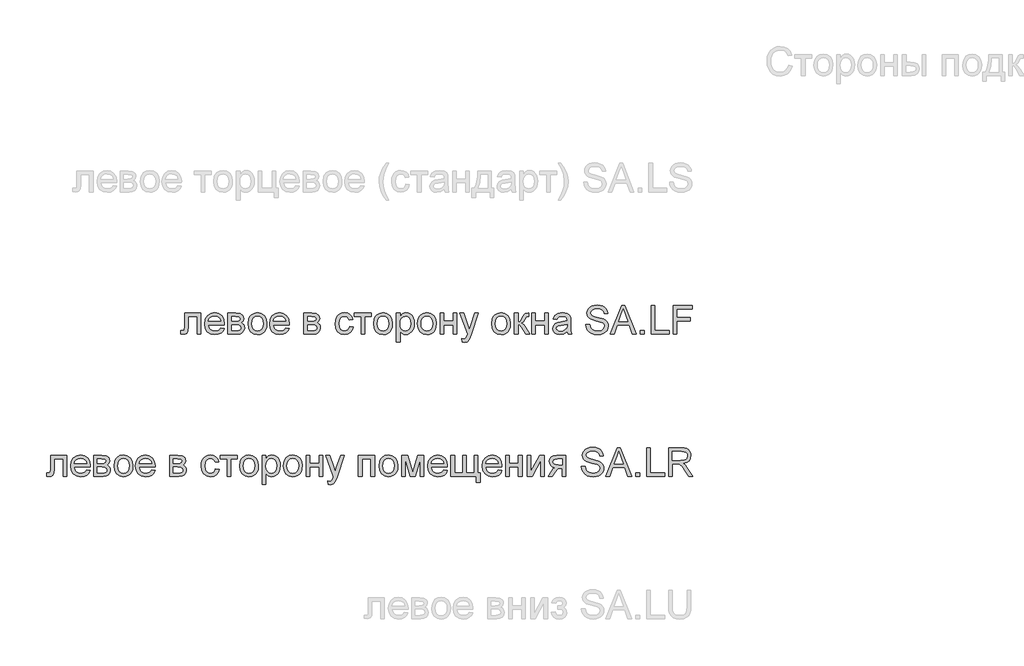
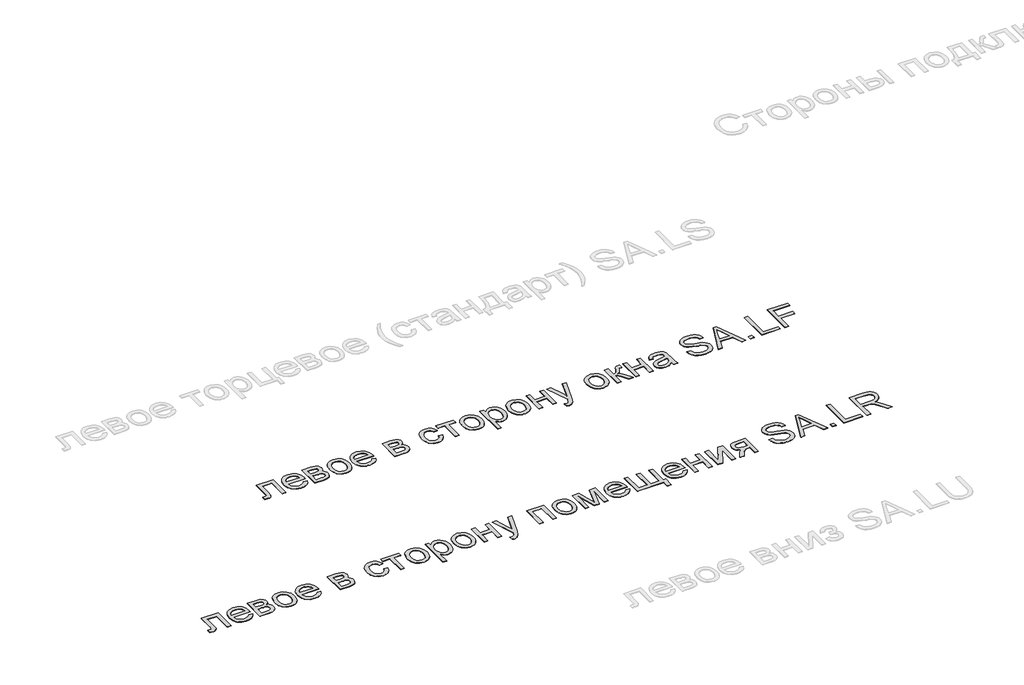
# One storey, part 5 of 17: 2 proxies.
"""IFC4 building model written with IfcOpenShell, lengths in millimetres."""

from ifc_helpers import new_model, si_unit, origin, origin_with_axes, place, context, project, spatial, polyline, outline, extrude, element, save

model = new_model("IFC4")

# Units and contexts
model_context = context("Model", 3, world=origin())
ifc_project = project(units=[si_unit("LENGTHUNIT", "METRE", prefix="MILLI")], contexts=[model_context])

# Site, building, storey
site = spatial("IfcSite", under=ifc_project)
building = spatial("IfcBuilding", under=site)
storey = spatial("IfcBuildingStorey", under=building, Name="Уровень 1", Elevation=0.0)

# Proxies
placement = place(None, origin())
element("IfcBuildingElementProxy", 1, Name="Текст модели 1", ObjectType="Текст модели 1", at=placement, inside=storey, context=model_context, shape_type="SweptSolid", body=[
    extrude(outline(polyline([(15703.2549634, -10578.6972647), (15816.2683123, -10578.6972647), (15816.2683123, -10726.0953174), (15791.1542348, -10726.0953174), (15791.1542348, -10603.8113423), (15728.3690409, -10603.8113423), (15728.3690409, -10674.1994307), (15726.6767837, -10706.6711481), (15717.381632, -10720.3808838), (15708.0864803, -10724.7770736), (15695.4068142, -10726.2424702), (15675.0016262, -10724.967146), (15675.0016262, -10701.1283927), (15686.2342897, -10701.1283927), (15697.5895807, -10699.5832883), (15702.1267919, -10694.6781951), (15703.2549634, -10672.7769536), (15703.2549634, -10578.6972647)])), origin_with_axes(), (0.0, 0.0, 1.0), 2.0),
    extrude(outline(polyline([(15957.2406929, -10682.2928346), (15981.8642611, -10685.4320942), (15972.9921736, -10703.9856095), (15958.8348482, -10717.8547608), (15939.7111158, -10726.4999876), (15915.9398075, -10729.3817299), (15886.4724597, -10724.4091916), (15863.7986661, -10709.4915767), (15849.3409037, -10685.5976411), (15844.5216495, -10653.6961408), (15849.3899546, -10620.7216513), (15863.9948698, -10596.0612949), (15886.3620951, -10580.6838275), (15914.5173305, -10575.558005), (15941.7957804, -10580.6715648), (15963.5927886, -10596.012244), (15977.8850041, -10620.6235494), (15982.649076, -10653.548988), (15982.5019232, -10660.3180167), (15869.6357271, -10660.3180167), (15873.982866, -10679.1167867), (15884.0812267, -10692.936887), (15898.6554851, -10701.434961), (15916.4303169, -10704.2676524), (15941.0538851, -10699.0192026), (15950.201884, -10692.2133857), (15957.2406929, -10682.2928346)]), holes=[polyline([(15869.6357271, -10635.2039392), (15957.5349984, -10635.2039392), (15954.1382214, -10621.9356619), (15947.4795572, -10612.4443064), (15932.8378538, -10603.6151385), (15914.4192286, -10600.6720826), (15897.4905255, -10603.020396), (15883.4926156, -10610.0653362), (15873.7621368, -10621.0466137), (15869.6357271, -10635.2039392)])]), origin_with_axes(), (0.0, 0.0, 1.0), 2.0),
    extrude(outline(polyline([(16007.7631535, -10578.6972647), (16063.0926056, -10578.6972647), (16093.4306075, -10582.0572536), (16110.500332, -10594.3690377), (16115.8530151, -10604.2098811), (16117.6372428, -10615.8288208), (16113.3207607, -10633.2664273), (16100.3222635, -10645.7008388), (16109.6174153, -10650.9186317), (16117.1957844, -10659.3124726), (16122.2357677, -10670.2201737), (16123.9157621, -10682.9795476), (16119.6605937, -10702.1216741), (16109.5438389, -10715.5984179), (16093.5287093, -10723.5814571), (16071.578417, -10726.2424702), (16007.7631535, -10726.2424702), (16007.7631535, -10578.6972647)]), holes=[polyline([(16032.8772311, -10635.2039392), (16057.697003, -10635.2039392), (16078.1757674, -10633.9286149), (16088.1331067, -10628.8273179), (16092.5231652, -10619.6057426), (16090.5979161, -10612.1132126), (16084.8221688, -10607.2939585), (16058.4818179, -10603.8113423), (16032.8772311, -10603.8113423), (16032.8772311, -10635.2039392)]), polyline([(16032.8772311, -10701.1283927), (16063.6812168, -10701.1283927), (16080.4688985, -10699.9940899), (16091.0025863, -10696.5911814), (16096.6557063, -10690.4046326), (16098.8016846, -10680.9194084), (16094.509728, -10668.8283535), (16083.3261153, -10661.7895447), (16061.2286702, -10660.3180167), (16032.8772311, -10660.3180167), (16032.8772311, -10701.1283927)])]), origin_with_axes(), (0.0, 0.0, 1.0), 2.0),
    extrude(outline(polyline([(16149.0298397, -10652.4698675), (16154.4622305, -10616.8956785), (16161.252719, -10603.0725126), (16170.7594029, -10591.8919656), (16190.8948107, -10579.6414952), (16215.0033441, -10575.558005), (16241.3866146, -10580.5305433), (16262.4601215, -10595.4481582), (16276.2740904, -10619.1336274), (16280.8787467, -10650.4097283), (16278.843133, -10675.7813232), (16272.7362919, -10695.095128), (16262.736033, -10709.5590218), (16249.020166, -10720.3808838), (16232.7291249, -10727.1315184), (16215.0033441, -10729.3817299), (16188.3012427, -10724.4275857), (16167.2522612, -10709.5651531), (16153.585445, -10685.3830433), (16149.0298397, -10652.4698675)]), holes=[polyline([(16174.1439172, -10652.4208165), (16177.050185, -10675.1497925), (16185.7689883, -10691.3427316), (16198.8901128, -10701.0364222), (16215.0033441, -10704.2676524), (16231.0429991, -10701.0180281), (16244.1395982, -10691.2691552), (16252.8584014, -10674.8616183), (16255.7646692, -10651.6360016), (16252.8400073, -10629.5692133), (16244.0660218, -10613.5970033), (16230.9510286, -10603.9033128), (16215.0033441, -10600.6720826), (16198.8901128, -10603.89105), (16185.7689883, -10613.5479524), (16177.050185, -10629.7041033), (16174.1439172, -10652.4208165)])]), origin_with_axes(), (0.0, 0.0, 1.0), 2.0),
    extrude(outline(polyline([(16412.4333482, -10682.2928346), (16437.0569164, -10685.4320942), (16428.184829, -10703.9856095), (16414.0275035, -10717.8547608), (16394.9037711, -10726.4999876), (16371.1324629, -10729.3817299), (16341.6651151, -10724.4091916), (16318.9913214, -10709.4915767), (16304.533559, -10685.5976411), (16299.7143049, -10653.6961408), (16304.58261, -10620.7216513), (16319.1875252, -10596.0612949), (16341.5547505, -10580.6838275), (16369.7099858, -10575.558005), (16396.9884358, -10580.6715648), (16418.785444, -10596.012244), (16433.0776595, -10620.6235494), (16437.8417314, -10653.548988), (16437.6945786, -10660.3180167), (16324.8283824, -10660.3180167), (16329.1755213, -10679.1167867), (16339.2738821, -10692.936887), (16353.8481405, -10701.434961), (16371.6229722, -10704.2676524), (16396.2465404, -10699.0192026), (16405.3945394, -10692.2133857), (16412.4333482, -10682.2928346)]), holes=[polyline([(16324.8283824, -10635.2039392), (16412.7276538, -10635.2039392), (16409.3308767, -10621.9356619), (16402.6722126, -10612.4443064), (16388.0305092, -10603.6151385), (16369.611884, -10600.6720826), (16352.6831808, -10603.020396), (16338.6852709, -10610.0653362), (16328.9547921, -10621.0466137), (16324.8283824, -10635.2039392)])]), origin_with_axes(), (0.0, 0.0, 1.0), 2.0),
    extrude(outline(polyline([(16541.4373012, -10578.6972647), (16596.7667533, -10578.6972647), (16627.1047551, -10582.0572536), (16644.1744797, -10594.3690377), (16649.5271627, -10604.2098811), (16651.3113904, -10615.8288208), (16646.9949083, -10633.2664273), (16633.9964112, -10645.7008388), (16643.2915629, -10650.9186317), (16650.869932, -10659.3124726), (16655.9099154, -10670.2201737), (16657.5899098, -10682.9795476), (16653.3347414, -10702.1216741), (16643.2179865, -10715.5984179), (16627.202857, -10723.5814571), (16605.2525646, -10726.2424702), (16541.4373012, -10726.2424702), (16541.4373012, -10578.6972647)]), holes=[polyline([(16566.5513787, -10635.2039392), (16591.3711507, -10635.2039392), (16611.8499151, -10633.9286149), (16621.8072544, -10628.8273179), (16626.1973129, -10619.6057426), (16624.2720638, -10612.1132126), (16618.4963165, -10607.2939585), (16592.1559656, -10603.8113423), (16566.5513787, -10603.8113423), (16566.5513787, -10635.2039392)]), polyline([(16566.5513787, -10701.1283927), (16597.3553645, -10701.1283927), (16614.1430462, -10699.9940899), (16624.676734, -10696.5911814), (16630.329854, -10690.4046326), (16632.4758323, -10680.9194084), (16628.1838757, -10668.8283535), (16617.000263, -10661.7895447), (16594.9028178, -10660.3180167), (16566.5513787, -10660.3180167), (16566.5513787, -10701.1283927)])]), origin_with_axes(), (0.0, 0.0, 1.0), 2.0),
    extrude(outline(polyline([(16861.6417898, -10672.8750555), (16886.7558673, -10676.0143152), (16879.7538467, -10698.3508836), (16866.595934, -10715.2305359), (16848.5206653, -10725.8439314), (16826.7665767, -10729.3817299), (16800.0522124, -10724.4459798), (16779.1626465, -10709.6387295), (16765.6797714, -10685.6099039), (16761.1854796, -10653.0094277), (16763.1045974, -10630.6605965), (16768.8619506, -10611.2916095), (16778.5495098, -10595.6504933), (16792.2592455, -10584.4852748), (16808.6606511, -10577.7898225), (16826.4232201, -10575.558005), (16847.6438799, -10578.6236883), (16864.6093712, -10587.8207382), (16876.7801339, -10602.6586453), (16883.6166076, -10622.6469004), (16858.5025301, -10625.7861601), (16853.9469247, -10614.829408), (16846.8529336, -10606.9751274), (16837.6129641, -10602.2478438), (16826.6194239, -10600.6720826), (16810.3896965, -10603.7745541), (16797.5076953, -10613.0819685), (16789.1015917, -10629.0970981), (16786.2995572, -10652.3227147), (16789.040278, -10675.861031), (16797.2624406, -10691.9313428), (16809.9114499, -10701.183575), (16825.9327108, -10704.2676524), (16838.9373393, -10702.3424033), (16849.5997858, -10696.566656), (16857.3559646, -10686.7932576), (16861.6417898, -10672.8750555)])), origin_with_axes(), (0.0, 0.0, 1.0), 2.0),
    extrude(outline(polyline([(16896.1736464, -10578.6972647), (17015.4655147, -10578.6972647), (17015.4655147, -10603.8113423), (16968.3766193, -10603.8113423), (16968.3766193, -10726.2424702), (16943.2625418, -10726.2424702), (16943.2625418, -10603.8113423), (16896.1736464, -10603.8113423), (16896.1736464, -10578.6972647)])), origin_with_axes(), (0.0, 0.0, 1.0), 2.0),
    extrude(outline(polyline([(17031.1618132, -10652.4698675), (17036.594204, -10616.8956785), (17043.3846925, -10603.0725126), (17052.8913764, -10591.8919656), (17073.0267842, -10579.6414952), (17097.1353176, -10575.558005), (17123.5185881, -10580.5305433), (17144.592095, -10595.4481582), (17158.4060639, -10619.1336274), (17163.0107202, -10650.4097283), (17160.9751065, -10675.7813232), (17154.8682654, -10695.095128), (17144.8680065, -10709.5590218), (17131.1521395, -10720.3808838), (17114.8610984, -10727.1315184), (17097.1353176, -10729.3817299), (17070.4332162, -10724.4275857), (17049.3842347, -10709.5651531), (17035.7174185, -10685.3830433), (17031.1618132, -10652.4698675)]), holes=[polyline([(17056.2758907, -10652.4208165), (17059.1821585, -10675.1497925), (17067.9009618, -10691.3427316), (17081.0220863, -10701.0364222), (17097.1353176, -10704.2676524), (17113.1749726, -10701.0180281), (17126.2715717, -10691.2691552), (17134.9903749, -10674.8616183), (17137.8966427, -10651.6360016), (17134.9719808, -10629.5692133), (17126.1979953, -10613.5970033), (17113.0830021, -10603.9033128), (17097.1353176, -10600.6720826), (17081.0220863, -10603.89105), (17067.9009618, -10613.5479524), (17059.1821585, -10629.7041033), (17056.2758907, -10652.4208165)])]), origin_with_axes(), (0.0, 0.0, 1.0), 2.0),
    extrude(outline(polyline([(17191.2640575, -10782.7491447), (17191.2640575, -10578.6972647), (17216.378135, -10578.6972647), (17216.378135, -10603.3208329), (17233.7421652, -10582.498712), (17244.4352685, -10577.2931818), (17257.188511, -10575.558005), (17274.1723965, -10577.9860262), (17289.0225663, -10585.2700897), (17301.1136212, -10596.9687371), (17309.8201618, -10612.6405101), (17315.0808743, -10631.1449745), (17316.8344452, -10651.341696), (17314.8540138, -10672.8198732), (17308.9127195, -10692.0294447), (17299.2006349, -10707.9955233), (17285.9078321, -10719.7432217), (17270.4261315, -10726.9721029), (17254.1473532, -10729.3817299), (17242.6019899, -10727.7691805), (17232.2951627, -10722.9315323), (17216.378135, -10706.6220972), (17216.378135, -10782.7491447), (17191.2640575, -10782.7491447)]), holes=[polyline([(17216.378135, -10653.6470899), (17219.0943304, -10676.161468), (17227.2429166, -10691.9068174), (17239.2665265, -10701.1774436), (17253.6077929, -10704.2676524), (17268.1820513, -10701.067079), (17280.5122295, -10691.465359), (17288.9183331, -10675.1436611), (17291.7203676, -10651.7831544), (17288.9857781, -10629.3914037), (17280.7820096, -10613.4253251), (17268.7767939, -10603.8603932), (17254.6378625, -10600.6720826), (17240.4437489, -10604.0627283), (17227.9786806, -10614.2346654), (17219.2782714, -10630.869063), (17216.378135, -10653.6470899)])]), origin_with_axes(), (0.0, 0.0, 1.0), 2.0),
    extrude(outline(polyline([(17338.809263, -10652.4698675), (17344.2416538, -10616.8956785), (17351.0321423, -10603.0725126), (17360.5388262, -10591.8919656), (17380.6742341, -10579.6414952), (17404.7827675, -10575.558005), (17431.1660379, -10580.5305433), (17452.2395449, -10595.4481582), (17466.0535138, -10619.1336274), (17470.6581701, -10650.4097283), (17468.6225564, -10675.7813232), (17462.5157153, -10695.095128), (17452.5154563, -10709.5590218), (17438.7995893, -10720.3808838), (17422.5085483, -10727.1315184), (17404.7827675, -10729.3817299), (17378.080666, -10724.4275857), (17357.0316845, -10709.5651531), (17343.3648684, -10685.3830433), (17338.809263, -10652.4698675)]), holes=[polyline([(17363.9233405, -10652.4208165), (17366.8296083, -10675.1497925), (17375.5484116, -10691.3427316), (17388.6695361, -10701.0364222), (17404.7827675, -10704.2676524), (17420.8224225, -10701.0180281), (17433.9190215, -10691.2691552), (17442.6378248, -10674.8616183), (17445.5440925, -10651.6360016), (17442.6194307, -10629.5692133), (17433.8454451, -10613.5970033), (17420.730452, -10603.9033128), (17404.7827675, -10600.6720826), (17388.6695361, -10603.89105), (17375.5484116, -10613.5479524), (17366.8296083, -10629.7041033), (17363.9233405, -10652.4208165)])]), origin_with_axes(), (0.0, 0.0, 1.0), 2.0),
    extrude(outline(polyline([(17498.9115073, -10578.6972647), (17524.0255848, -10578.6972647), (17524.0255848, -10635.2039392), (17589.9500384, -10635.2039392), (17589.9500384, -10578.6972647), (17615.0641159, -10578.6972647), (17615.0641159, -10726.2424702), (17589.9500384, -10726.2424702), (17589.9500384, -10660.3180167), (17524.0255848, -10660.3180167), (17524.0255848, -10726.2424702), (17498.9115073, -10726.2424702), (17498.9115073, -10578.6972647)])), origin_with_axes(), (0.0, 0.0, 1.0), 2.0),
    extrude(outline(polyline([(17652.7352322, -10782.7491447), (17649.5959725, -10758.5670349), (17662.349215, -10760.7743269), (17674.2685917, -10758.0029492), (17681.5771806, -10750.2774273), (17688.4443112, -10731.7852256), (17690.4063485, -10725.70291), (17637.0389338, -10578.6972647), (17663.5264374, -10578.6972647), (17691.8288256, -10660.6123223), (17701.688063, -10693.3783453), (17711.5473005, -10664.4382951), (17740.6345036, -10578.6972647), (17766.9258035, -10578.6972647), (17715.569477, -10729.7741374), (17702.2276233, -10762.5401604), (17687.6594963, -10780.2475471), (17668.0881742, -10785.8884044), (17652.7352322, -10782.7491447)])), origin_with_axes(), (0.0, 0.0, 1.0), 2.0),
    extrude(outline(polyline([(17859.9263719, -10652.4698675), (17865.3587627, -10616.8956785), (17872.1492512, -10603.0725126), (17881.6559351, -10591.8919656), (17901.791343, -10579.6414952), (17925.8998764, -10575.558005), (17952.2831468, -10580.5305433), (17973.3566538, -10595.4481582), (17987.1706227, -10619.1336274), (17991.775279, -10650.4097283), (17989.7396653, -10675.7813232), (17983.6328242, -10695.095128), (17973.6325653, -10709.5590218), (17959.9166982, -10720.3808838), (17943.6256572, -10727.1315184), (17925.8998764, -10729.3817299), (17899.1977749, -10724.4275857), (17878.1487934, -10709.5651531), (17864.4819773, -10685.3830433), (17859.9263719, -10652.4698675)]), holes=[polyline([(17885.0404494, -10652.4208165), (17887.9467172, -10675.1497925), (17896.6655205, -10691.3427316), (17909.786645, -10701.0364222), (17925.8998764, -10704.2676524), (17941.9395314, -10701.0180281), (17955.0361304, -10691.2691552), (17963.7549337, -10674.8616183), (17966.6612014, -10651.6360016), (17963.7365396, -10629.5692133), (17954.962554, -10613.5970033), (17941.8475609, -10603.9033128), (17925.8998764, -10600.6720826), (17909.786645, -10603.89105), (17896.6655205, -10613.5479524), (17887.9467172, -10629.7041033), (17885.0404494, -10652.4208165)])]), origin_with_axes(), (0.0, 0.0, 1.0), 2.0),
    extrude(outline(polyline([(18020.0286162, -10578.6972647), (18045.1426937, -10578.6972647), (18045.1426937, -10641.4824586), (18061.9671637, -10636.9697728), (18075.7504757, -10610.6784728), (18087.2038685, -10587.9924165), (18097.3083607, -10580.6102511), (18115.677935, -10578.6972647), (18120.4849264, -10578.6972647), (18120.4849264, -10603.9584951), (18113.7158976, -10603.8113423), (18101.4531645, -10606.4600926), (18092.8202003, -10622.9902569), (18082.6911827, -10640.8693219), (18068.4909377, -10649.6249134), (18084.334389, -10659.3983117), (18099.8835346, -10679.9874407), (18126.7634457, -10726.2424702), (18098.2158029, -10726.2424702), (18071.8754521, -10680.9684594), (18058.6317002, -10661.8140702), (18045.1426937, -10657.178757), (18045.1426937, -10726.2424702), (18020.0286162, -10726.2424702), (18020.0286162, -10578.6972647)])), origin_with_axes(), (0.0, 0.0, 1.0), 2.0),
    extrude(outline(polyline([(18142.4597442, -10578.6972647), (18167.5738217, -10578.6972647), (18167.5738217, -10635.2039392), (18233.4982753, -10635.2039392), (18233.4982753, -10578.6972647), (18258.6123528, -10578.6972647), (18258.6123528, -10726.2424702), (18233.4982753, -10726.2424702), (18233.4982753, -10660.3180167), (18167.5738217, -10660.3180167), (18167.5738217, -10726.2424702), (18142.4597442, -10726.2424702), (18142.4597442, -10578.6972647)])), origin_with_axes(), (0.0, 0.0, 1.0), 2.0),
    extrude(outline(polyline([(18390.4612599, -10707.4069121), (18366.1074718, -10724.4275857), (18339.2030352, -10729.3817299), (18318.2153674, -10726.4018858), (18302.7336668, -10717.4623533), (18293.187129, -10703.8875077), (18290.0049497, -10687.0017241), (18294.8119411, -10667.1360964), (18307.4425563, -10652.7151221), (18325.0273157, -10644.4745655), (18346.7568789, -10640.6976436), (18390.3141071, -10632.0646795), (18390.4612599, -10626.4728732), (18388.7322145, -10615.264735), (18383.5450784, -10607.9316206), (18371.9445328, -10602.4869671), (18355.7822505, -10600.6720826), (18340.821716, -10601.8799618), (18330.3738673, -10605.5035994), (18323.2492194, -10612.2051831), (18318.258287, -10622.6469004), (18293.1442094, -10619.5076407), (18304.008991, -10594.9821744), (18313.2673546, -10586.7293549), (18325.885707, -10580.6102511), (18359.019612, -10575.558005), (18389.4557158, -10580.0216399), (18406.6480677, -10591.229778), (18414.3490641, -10608.2749771), (18415.5753374, -10630.249795), (18415.5753374, -10661.4952391), (18416.8506617, -10705.1260437), (18421.8538568, -10726.2424702), (18396.7397793, -10726.2424702), (18390.4612599, -10707.4069121)]), holes=[polyline([(18390.4612599, -10657.178757), (18349.9451895, -10664.8797535), (18328.3382536, -10668.9509809), (18318.5525926, -10675.5728568), (18315.1190273, -10685.2358905), (18316.9890941, -10692.703895), (18322.5992945, -10698.8229989), (18331.8270012, -10702.906489), (18344.5495869, -10704.2676524), (18358.0385934, -10702.7654676), (18369.95797, -10698.2589131), (18386.3409815, -10683.7153116), (18390.3141071, -10664.2911423), (18390.4612599, -10657.178757)])]), origin_with_axes(), (0.0, 0.0, 1.0), 2.0),
    extrude(outline(polyline([(18522.310167, -10657.178757), (18547.4242445, -10657.178757), (18555.5176484, -10682.31736), (18563.6478405, -10691.2078416), (18575.2851743, -10698.2098622), (18589.5099447, -10702.7532049), (18605.4024469, -10704.2676524), (18631.6446959, -10699.6813902), (18648.5917932, -10687.0753005), (18654.159074, -10670.2263051), (18649.9897447, -10654.5545321), (18643.637649, -10648.3557205), (18632.9200202, -10643.1501903), (18596.3525499, -10633.5607329), (18556.9891764, -10621.1753724), (18544.4873199, -10612.7263493), (18535.6274952, -10602.4869671), (18530.3483886, -10590.677955), (18528.5886863, -10577.5200423), (18530.7653215, -10562.8108939), (18537.2952269, -10549.0950268), (18548.0067243, -10537.4699558), (18562.7281355, -10529.0331954), (18580.398734, -10523.9012415), (18599.9577934, -10522.1905903), (18621.1477963, -10523.9809493), (18639.6890489, -10529.3520264), (18654.9193635, -10538.193457), (18666.1765525, -10550.3948766), (18673.3012005, -10565.1959955), (18676.1338919, -10581.8365244), (18651.0198143, -10581.8365244), (18646.4090267, -10566.8514645), (18636.7950439, -10556.0357338), (18621.7731957, -10549.4874343), (18600.9388121, -10547.3046678), (18579.6139191, -10549.4629088), (18564.9844784, -10555.9376319), (18556.5231925, -10565.4657756), (18553.7027639, -10576.7842783), (18555.7015894, -10586.4350493), (18561.6980659, -10594.1973594), (18575.8737855, -10601.1380664), (18602.7046456, -10608.2259262), (18647.1447907, -10620.8320159), (18661.4615316, -10629.9432266), (18671.4495278, -10641.188153), (18677.3172456, -10654.4441675), (18679.2731516, -10669.588643), (18677.02294, -10685.0703436), (18670.2723054, -10699.6323393), (18659.2971592, -10712.1648526), (18644.373413, -10721.5581062), (18626.426903, -10727.425824), (18606.3834656, -10729.3817299), (18581.7782915, -10727.2725398), (18561.5263876, -10720.9449695), (18545.3947622, -10710.3744935), (18533.1504231, -10695.5365864), (18525.2900111, -10677.4613177), (18522.310167, -10657.178757)])), origin_with_axes(), (0.0, 0.0, 1.0), 2.0),
    extrude(outline(polyline([(18693.546973, -10726.2424702), (18773.7452479, -10525.3298499), (18795.1314546, -10525.3298499), (18875.3297295, -10726.2424702), (18848.7931749, -10726.2424702), (18825.7882875, -10663.4572764), (18743.0393641, -10663.4572764), (18720.0835276, -10726.2424702), (18693.546973, -10726.2424702)]), holes=[polyline([(18752.2609394, -10638.3431989), (18816.6157631, -10638.3431989), (18798.5159689, -10588.9489096), (18784.4383513, -10550.4439275), (18771.9303634, -10584.6324276), (18752.2609394, -10638.3431989)])]), origin_with_axes(), (0.0, 0.0, 1.0), 2.0),
    extrude(outline(polyline([(18905.2998494, -10726.2424702), (18905.2998494, -10701.1283927), (18930.4139269, -10701.1283927), (18930.4139269, -10726.2424702), (18905.2998494, -10726.2424702)])), origin_with_axes(), (0.0, 0.0, 1.0), 2.0),
    extrude(outline(polyline([(18980.642082, -10726.2424702), (18980.642082, -10525.3298499), (19005.7561596, -10525.3298499), (19005.7561596, -10701.1283927), (19106.2124697, -10701.1283927), (19106.2124697, -10726.2424702), (18980.642082, -10726.2424702)])), origin_with_axes(), (0.0, 0.0, 1.0), 2.0),
    extrude(outline(polyline([(19134.4658069, -10726.2424702), (19134.4658069, -10525.3298499), (19269.4539737, -10525.3298499), (19269.4539737, -10550.4439275), (19159.5798845, -10550.4439275), (19159.5798845, -10610.0898616), (19253.7576752, -10610.0898616), (19253.7576752, -10635.2039392), (19159.5798845, -10635.2039392), (19159.5798845, -10726.2424702), (19134.4658069, -10726.2424702)])), origin_with_axes(), (0.0, 0.0, 1.0), 2.0),
])
element("IfcBuildingElementProxy", 2, Name="Текст модели 1", ObjectType="Текст модели 1", at=placement, inside=storey, context=model_context, shape_type="SweptSolid", body=[
    extrude(outline(polyline([(14761.4770557, -11578.6972647), (14874.4904046, -11578.6972647), (14874.4904046, -11726.0953174), (14849.3763271, -11726.0953174), (14849.3763271, -11603.8113423), (14786.5911333, -11603.8113423), (14786.5911333, -11674.1994307), (14784.8988761, -11706.6711481), (14775.6037243, -11720.3808838), (14766.3085726, -11724.7770736), (14753.6289065, -11726.2424702), (14733.2237185, -11724.967146), (14733.2237185, -11701.1283927), (14744.4563821, -11701.1283927), (14755.811673, -11699.5832883), (14760.3488843, -11694.6781951), (14761.4770557, -11672.7769536), (14761.4770557, -11578.6972647)])), origin_with_axes(), (0.0, 0.0, 1.0), 2.0),
    extrude(outline(polyline([(15015.4627852, -11682.2928346), (15040.0863534, -11685.4320942), (15031.214266, -11703.9856095), (15017.0569405, -11717.8547608), (14997.9332081, -11726.4999876), (14974.1618999, -11729.3817299), (14944.6945521, -11724.4091916), (14922.0207584, -11709.4915767), (14907.562996, -11685.5976411), (14902.7437419, -11653.6961408), (14907.6120469, -11620.7216513), (14922.2169622, -11596.0612949), (14944.5841875, -11580.6838275), (14972.7394228, -11575.558005), (15000.0178728, -11580.6715648), (15021.814881, -11596.012244), (15036.1070965, -11620.6235494), (15040.8711683, -11653.548988), (15040.7240155, -11660.3180167), (14927.8578194, -11660.3180167), (14932.2049583, -11679.1167867), (14942.3033191, -11692.936887), (14956.8775775, -11701.434961), (14974.6524092, -11704.2676524), (14999.2759774, -11699.0192026), (15008.4239764, -11692.2133857), (15015.4627852, -11682.2928346)]), holes=[polyline([(14927.8578194, -11635.2039392), (15015.7570908, -11635.2039392), (15012.3603137, -11621.9356619), (15005.7016496, -11612.4443064), (14991.0599462, -11603.6151385), (14972.641321, -11600.6720826), (14955.7126178, -11603.020396), (14941.7147079, -11610.0653362), (14931.9842291, -11621.0466137), (14927.8578194, -11635.2039392)])]), origin_with_axes(), (0.0, 0.0, 1.0), 2.0),
    extrude(outline(polyline([(15065.9852459, -11578.6972647), (15121.3146979, -11578.6972647), (15151.6526998, -11582.0572536), (15168.7224244, -11594.3690377), (15174.0751074, -11604.2098811), (15175.8593351, -11615.8288208), (15171.542853, -11633.2664273), (15158.5443559, -11645.7008388), (15167.8395076, -11650.9186317), (15175.4178767, -11659.3124726), (15180.45786, -11670.2201737), (15182.1378545, -11682.9795476), (15177.8826861, -11702.1216741), (15167.7659312, -11715.5984179), (15151.7508017, -11723.5814571), (15129.8005093, -11726.2424702), (15065.9852459, -11726.2424702), (15065.9852459, -11578.6972647)]), holes=[polyline([(15091.0993234, -11635.2039392), (15115.9190954, -11635.2039392), (15136.3978597, -11633.9286149), (15146.3551991, -11628.8273179), (15150.7452576, -11619.6057426), (15148.8200085, -11612.1132126), (15143.0442611, -11607.2939585), (15116.7039103, -11603.8113423), (15091.0993234, -11603.8113423), (15091.0993234, -11635.2039392)]), polyline([(15091.0993234, -11701.1283927), (15121.9033091, -11701.1283927), (15138.6909909, -11699.9940899), (15149.2246786, -11696.5911814), (15154.8777986, -11690.4046326), (15157.0237769, -11680.9194084), (15152.7318203, -11668.8283535), (15141.5482077, -11661.7895447), (15119.4507625, -11660.3180167), (15091.0993234, -11660.3180167), (15091.0993234, -11701.1283927)])]), origin_with_axes(), (0.0, 0.0, 1.0), 2.0),
    extrude(outline(polyline([(15207.251932, -11652.4698675), (15212.6843228, -11616.8956785), (15219.4748113, -11603.0725126), (15228.9814952, -11591.8919656), (15249.1169031, -11579.6414952), (15273.2254365, -11575.558005), (15299.6087069, -11580.5305433), (15320.6822139, -11595.4481582), (15334.4961828, -11619.1336274), (15339.1008391, -11650.4097283), (15337.0652254, -11675.7813232), (15330.9583843, -11695.095128), (15320.9581254, -11709.5590218), (15307.2422583, -11720.3808838), (15290.9512173, -11727.1315184), (15273.2254365, -11729.3817299), (15246.523335, -11724.4275857), (15225.4743535, -11709.5651531), (15211.8075374, -11685.3830433), (15207.251932, -11652.4698675)]), holes=[polyline([(15232.3660096, -11652.4208165), (15235.2722773, -11675.1497925), (15243.9910806, -11691.3427316), (15257.1122051, -11701.0364222), (15273.2254365, -11704.2676524), (15289.2650915, -11701.0180281), (15302.3616905, -11691.2691552), (15311.0804938, -11674.8616183), (15313.9867616, -11651.6360016), (15311.0620997, -11629.5692133), (15302.2881141, -11613.5970033), (15289.173121, -11603.9033128), (15273.2254365, -11600.6720826), (15257.1122051, -11603.89105), (15243.9910806, -11613.5479524), (15235.2722773, -11629.7041033), (15232.3660096, -11652.4208165)])]), origin_with_axes(), (0.0, 0.0, 1.0), 2.0),
    extrude(outline(polyline([(15470.6554406, -11682.2928346), (15495.2790088, -11685.4320942), (15486.4069213, -11703.9856095), (15472.2495959, -11717.8547608), (15453.1258635, -11726.4999876), (15429.3545552, -11729.3817299), (15399.8872074, -11724.4091916), (15377.2134138, -11709.4915767), (15362.7556514, -11685.5976411), (15357.9363972, -11653.6961408), (15362.8047023, -11620.7216513), (15377.4096175, -11596.0612949), (15399.7768428, -11580.6838275), (15427.9320782, -11575.558005), (15455.2105281, -11580.6715648), (15477.0075363, -11596.012244), (15491.2997519, -11620.6235494), (15496.0638237, -11653.548988), (15495.9166709, -11660.3180167), (15383.0504748, -11660.3180167), (15387.3976137, -11679.1167867), (15397.4959745, -11692.936887), (15412.0702328, -11701.434961), (15429.8450646, -11704.2676524), (15454.4686328, -11699.0192026), (15463.6166317, -11692.2133857), (15470.6554406, -11682.2928346)]), holes=[polyline([(15383.0504748, -11635.2039392), (15470.9497462, -11635.2039392), (15467.5529691, -11621.9356619), (15460.894305, -11612.4443064), (15446.2526016, -11603.6151385), (15427.8339763, -11600.6720826), (15410.9052732, -11603.020396), (15396.9073633, -11610.0653362), (15387.1768845, -11621.0466137), (15383.0504748, -11635.2039392)])]), origin_with_axes(), (0.0, 0.0, 1.0), 2.0),
    extrude(outline(polyline([(15599.6593935, -11578.6972647), (15654.9888456, -11578.6972647), (15685.3268475, -11582.0572536), (15702.3965721, -11594.3690377), (15707.7492551, -11604.2098811), (15709.5334828, -11615.8288208), (15705.2170007, -11633.2664273), (15692.2185035, -11645.7008388), (15701.5136553, -11650.9186317), (15709.0920244, -11659.3124726), (15714.1320077, -11670.2201737), (15715.8120022, -11682.9795476), (15711.5568337, -11702.1216741), (15701.4400789, -11715.5984179), (15685.4249494, -11723.5814571), (15663.474657, -11726.2424702), (15599.6593935, -11726.2424702), (15599.6593935, -11578.6972647)]), holes=[polyline([(15624.7734711, -11635.2039392), (15649.593243, -11635.2039392), (15670.0720074, -11633.9286149), (15680.0293468, -11628.8273179), (15684.4194052, -11619.6057426), (15682.4941561, -11612.1132126), (15676.7184088, -11607.2939585), (15650.3780579, -11603.8113423), (15624.7734711, -11603.8113423), (15624.7734711, -11635.2039392)]), polyline([(15624.7734711, -11701.1283927), (15655.5774568, -11701.1283927), (15672.3651385, -11699.9940899), (15682.8988263, -11696.5911814), (15688.5519463, -11690.4046326), (15690.6979246, -11680.9194084), (15686.405968, -11668.8283535), (15675.2223554, -11661.7895447), (15653.1249102, -11660.3180167), (15624.7734711, -11660.3180167), (15624.7734711, -11701.1283927)])]), origin_with_axes(), (0.0, 0.0, 1.0), 2.0),
    extrude(outline(polyline([(15919.8638821, -11672.8750555), (15944.9779597, -11676.0143152), (15937.975939, -11698.3508836), (15924.8180263, -11715.2305359), (15906.7427576, -11725.8439314), (15884.988669, -11729.3817299), (15858.2743048, -11724.4459798), (15837.3847388, -11709.6387295), (15823.9018637, -11685.6099039), (15819.407572, -11653.0094277), (15821.3266897, -11630.6605965), (15827.084043, -11611.2916095), (15836.7716022, -11595.6504933), (15850.4813379, -11584.4852748), (15866.8827435, -11577.7898225), (15884.6453125, -11575.558005), (15905.8659722, -11578.6236883), (15922.8314636, -11587.8207382), (15935.0022262, -11602.6586453), (15941.8387, -11622.6469004), (15916.7246225, -11625.7861601), (15912.1690171, -11614.829408), (15905.0750259, -11606.9751274), (15895.8350565, -11602.2478438), (15884.8415162, -11600.6720826), (15868.6117888, -11603.7745541), (15855.7297877, -11613.0819685), (15847.3236841, -11629.0970981), (15844.5216495, -11652.3227147), (15847.2623704, -11675.861031), (15855.484533, -11691.9313428), (15868.1335423, -11701.183575), (15884.1548031, -11704.2676524), (15897.1594317, -11702.3424033), (15907.8218782, -11696.566656), (15915.5780569, -11686.7932576), (15919.8638821, -11672.8750555)])), origin_with_axes(), (0.0, 0.0, 1.0), 2.0),
    extrude(outline(polyline([(15954.3957388, -11578.6972647), (16073.6876071, -11578.6972647), (16073.6876071, -11603.8113423), (16026.5987117, -11603.8113423), (16026.5987117, -11726.2424702), (16001.4846341, -11726.2424702), (16001.4846341, -11603.8113423), (15954.3957388, -11603.8113423), (15954.3957388, -11578.6972647)])), origin_with_axes(), (0.0, 0.0, 1.0), 2.0),
    extrude(outline(polyline([(16089.3839055, -11652.4698675), (16094.8162963, -11616.8956785), (16101.6067848, -11603.0725126), (16111.1134687, -11591.8919656), (16131.2488766, -11579.6414952), (16155.35741, -11575.558005), (16181.7406804, -11580.5305433), (16202.8141874, -11595.4481582), (16216.6281563, -11619.1336274), (16221.2328126, -11650.4097283), (16219.1971989, -11675.7813232), (16213.0903578, -11695.095128), (16203.0900989, -11709.5590218), (16189.3742318, -11720.3808838), (16173.0831908, -11727.1315184), (16155.35741, -11729.3817299), (16128.6553085, -11724.4275857), (16107.606327, -11709.5651531), (16093.9395109, -11685.3830433), (16089.3839055, -11652.4698675)]), holes=[polyline([(16114.4979831, -11652.4208165), (16117.4042508, -11675.1497925), (16126.1230541, -11691.3427316), (16139.2441786, -11701.0364222), (16155.35741, -11704.2676524), (16171.397065, -11701.0180281), (16184.493664, -11691.2691552), (16193.2124673, -11674.8616183), (16196.1187351, -11651.6360016), (16193.1940732, -11629.5692133), (16184.4200876, -11613.5970033), (16171.3050945, -11603.9033128), (16155.35741, -11600.6720826), (16139.2441786, -11603.89105), (16126.1230541, -11613.5479524), (16117.4042508, -11629.7041033), (16114.4979831, -11652.4208165)])]), origin_with_axes(), (0.0, 0.0, 1.0), 2.0),
    extrude(outline(polyline([(16249.4861498, -11782.7491447), (16249.4861498, -11578.6972647), (16274.6002274, -11578.6972647), (16274.6002274, -11603.3208329), (16291.9642575, -11582.498712), (16302.6573609, -11577.2931818), (16315.4106034, -11575.558005), (16332.3944888, -11577.9860262), (16347.2446587, -11585.2700897), (16359.3357136, -11596.9687371), (16368.0422541, -11612.6405101), (16373.3029667, -11631.1449745), (16375.0565375, -11651.341696), (16373.0761061, -11672.8198732), (16367.1348119, -11692.0294447), (16357.4227272, -11707.9955233), (16344.1299244, -11719.7432217), (16328.6482238, -11726.9721029), (16312.3694455, -11729.3817299), (16300.8240822, -11727.7691805), (16290.517255, -11722.9315323), (16274.6002274, -11706.6220972), (16274.6002274, -11782.7491447), (16249.4861498, -11782.7491447)]), holes=[polyline([(16274.6002274, -11653.6470899), (16277.3164228, -11676.161468), (16285.465009, -11691.9068174), (16297.4886188, -11701.1774436), (16311.8298853, -11704.2676524), (16326.4041436, -11701.067079), (16338.7343219, -11691.465359), (16347.1404254, -11675.1436611), (16349.94246, -11651.7831544), (16347.2078705, -11629.3914037), (16339.004102, -11613.4253251), (16326.9988862, -11603.8603932), (16312.8599549, -11600.6720826), (16298.6658412, -11604.0627283), (16286.2007729, -11614.2346654), (16277.5003638, -11630.869063), (16274.6002274, -11653.6470899)])]), origin_with_axes(), (0.0, 0.0, 1.0), 2.0),
    extrude(outline(polyline([(16397.0313554, -11652.4698675), (16402.4637461, -11616.8956785), (16409.2542346, -11603.0725126), (16418.7609185, -11591.8919656), (16438.8963264, -11579.6414952), (16463.0048598, -11575.558005), (16489.3881302, -11580.5305433), (16510.4616372, -11595.4481582), (16524.2756061, -11619.1336274), (16528.8802624, -11650.4097283), (16526.8446487, -11675.7813232), (16520.7378076, -11695.095128), (16510.7375487, -11709.5590218), (16497.0216816, -11720.3808838), (16480.7306406, -11727.1315184), (16463.0048598, -11729.3817299), (16436.3027583, -11724.4275857), (16415.2537768, -11709.5651531), (16401.5869607, -11685.3830433), (16397.0313554, -11652.4698675)]), holes=[polyline([(16422.1454329, -11652.4208165), (16425.0517007, -11675.1497925), (16433.7705039, -11691.3427316), (16446.8916284, -11701.0364222), (16463.0048598, -11704.2676524), (16479.0445148, -11701.0180281), (16492.1411138, -11691.2691552), (16500.8599171, -11674.8616183), (16503.7661849, -11651.6360016), (16500.841523, -11629.5692133), (16492.0675374, -11613.5970033), (16478.9525443, -11603.9033128), (16463.0048598, -11600.6720826), (16446.8916284, -11603.89105), (16433.7705039, -11613.5479524), (16425.0517007, -11629.7041033), (16422.1454329, -11652.4208165)])]), origin_with_axes(), (0.0, 0.0, 1.0), 2.0),
    extrude(outline(polyline([(16557.1335997, -11578.6972647), (16582.2476772, -11578.6972647), (16582.2476772, -11635.2039392), (16648.1721307, -11635.2039392), (16648.1721307, -11578.6972647), (16673.2862083, -11578.6972647), (16673.2862083, -11726.2424702), (16648.1721307, -11726.2424702), (16648.1721307, -11660.3180167), (16582.2476772, -11660.3180167), (16582.2476772, -11726.2424702), (16557.1335997, -11726.2424702), (16557.1335997, -11578.6972647)])), origin_with_axes(), (0.0, 0.0, 1.0), 2.0),
    extrude(outline(polyline([(16710.9573246, -11782.7491447), (16707.8180649, -11758.5670349), (16720.5713074, -11760.7743269), (16732.490684, -11758.0029492), (16739.799273, -11750.2774273), (16746.6664036, -11731.7852256), (16748.6284409, -11725.70291), (16695.2610261, -11578.6972647), (16721.7485298, -11578.6972647), (16750.0509179, -11660.6123223), (16759.9101554, -11693.3783453), (16769.7693929, -11664.4382951), (16798.856596, -11578.6972647), (16825.1478959, -11578.6972647), (16773.7915693, -11729.7741374), (16760.4497157, -11762.5401604), (16745.8815886, -11780.2475471), (16726.3102665, -11785.8884044), (16710.9573246, -11782.7491447)])), origin_with_axes(), (0.0, 0.0, 1.0), 2.0),
    extrude(outline(polyline([(16924.4269836, -11578.6972647), (17037.4403326, -11578.6972647), (17037.4403326, -11726.2424702), (17012.326255, -11726.2424702), (17012.326255, -11603.8113423), (16949.5410612, -11603.8113423), (16949.5410612, -11726.2424702), (16924.4269836, -11726.2424702), (16924.4269836, -11578.6972647)])), origin_with_axes(), (0.0, 0.0, 1.0), 2.0),
    extrude(outline(polyline([(17068.8329295, -11652.4698675), (17074.2653203, -11616.8956785), (17081.0558088, -11603.0725126), (17090.5624927, -11591.8919656), (17110.6979005, -11579.6414952), (17134.8064339, -11575.558005), (17161.1897044, -11580.5305433), (17182.2632113, -11595.4481582), (17196.0771802, -11619.1336274), (17200.6818366, -11650.4097283), (17198.6462228, -11675.7813232), (17192.5393817, -11695.095128), (17182.5391228, -11709.5590218), (17168.8232558, -11720.3808838), (17152.5322147, -11727.1315184), (17134.8064339, -11729.3817299), (17108.1043325, -11724.4275857), (17087.055351, -11709.5651531), (17073.3885349, -11685.3830433), (17068.8329295, -11652.4698675)]), holes=[polyline([(17093.947007, -11652.4208165), (17096.8532748, -11675.1497925), (17105.5720781, -11691.3427316), (17118.6932026, -11701.0364222), (17134.8064339, -11704.2676524), (17150.8460889, -11701.0180281), (17163.942688, -11691.2691552), (17172.6614913, -11674.8616183), (17175.567759, -11651.6360016), (17172.6430972, -11629.5692133), (17163.8691116, -11613.5970033), (17150.7541184, -11603.9033128), (17134.8064339, -11600.6720826), (17118.6932026, -11603.89105), (17105.5720781, -11613.5479524), (17096.8532748, -11629.7041033), (17093.947007, -11652.4208165)])]), origin_with_axes(), (0.0, 0.0, 1.0), 2.0),
    extrude(outline(polyline([(17228.9351738, -11578.6972647), (17272.1490455, -11578.6972647), (17305.4546288, -11696.8119106), (17341.3599115, -11578.6972647), (17382.7588987, -11578.6972647), (17382.7588987, -11726.2424702), (17357.6448212, -11726.2424702), (17357.6448212, -11607.4411113), (17321.5433347, -11726.2424702), (17288.5811079, -11726.2424702), (17254.0492513, -11601.7512031), (17254.0492513, -11726.2424702), (17228.9351738, -11726.2424702), (17228.9351738, -11578.6972647)])), origin_with_axes(), (0.0, 0.0, 1.0), 2.0),
    extrude(outline(polyline([(17523.7312792, -11682.2928346), (17548.3548475, -11685.4320942), (17539.48276, -11703.9856095), (17525.3254346, -11717.8547608), (17506.2017022, -11726.4999876), (17482.4303939, -11729.3817299), (17452.9630461, -11724.4091916), (17430.2892525, -11709.4915767), (17415.8314901, -11685.5976411), (17411.0122359, -11653.6961408), (17415.880541, -11620.7216513), (17430.4854562, -11596.0612949), (17452.8526815, -11580.6838275), (17481.0079169, -11575.558005), (17508.2863668, -11580.6715648), (17530.083375, -11596.012244), (17544.3755905, -11620.6235494), (17549.1396624, -11653.548988), (17548.9925096, -11660.3180167), (17436.1263135, -11660.3180167), (17440.4734524, -11679.1167867), (17450.5718131, -11692.936887), (17465.1460715, -11701.434961), (17482.9209033, -11704.2676524), (17507.5444715, -11699.0192026), (17516.6924704, -11692.2133857), (17523.7312792, -11682.2928346)]), holes=[polyline([(17436.1263135, -11635.2039392), (17524.0255848, -11635.2039392), (17520.6288078, -11621.9356619), (17513.9701436, -11612.4443064), (17499.3284402, -11603.6151385), (17480.909815, -11600.6720826), (17463.9811119, -11603.020396), (17449.9832019, -11610.0653362), (17440.2527232, -11621.0466137), (17436.1263135, -11635.2039392)])]), origin_with_axes(), (0.0, 0.0, 1.0), 2.0),
    extrude(outline(polyline([(17574.2537399, -11578.6972647), (17599.3678175, -11578.6972647), (17599.3678175, -11701.1283927), (17655.8744919, -11701.1283927), (17655.8744919, -11578.6972647), (17680.9885695, -11578.6972647), (17680.9885695, -11701.1283927), (17737.4952439, -11701.1283927), (17737.4952439, -11578.6972647), (17762.6093215, -11578.6972647), (17762.6093215, -11701.1283927), (17778.3056199, -11701.1283927), (17778.3056199, -11767.0528462), (17753.1915424, -11767.0528462), (17753.1915424, -11726.2424702), (17574.2537399, -11726.2424702), (17574.2537399, -11578.6972647)])), origin_with_axes(), (0.0, 0.0, 1.0), 2.0),
    extrude(outline(polyline([(17906.7209617, -11682.2928346), (17931.3445299, -11685.4320942), (17922.4724425, -11703.9856095), (17908.315117, -11717.8547608), (17889.1913846, -11726.4999876), (17865.4200764, -11729.3817299), (17835.9527286, -11724.4091916), (17813.2789349, -11709.4915767), (17798.8211725, -11685.5976411), (17794.0019184, -11653.6961408), (17798.8702234, -11620.7216513), (17813.4751387, -11596.0612949), (17835.842364, -11580.6838275), (17863.9975993, -11575.558005), (17891.2760493, -11580.6715648), (17913.0730575, -11596.012244), (17927.365273, -11620.6235494), (17932.1293448, -11653.548988), (17931.982192, -11660.3180167), (17819.1159959, -11660.3180167), (17823.4631348, -11679.1167867), (17833.5614956, -11692.936887), (17848.135754, -11701.434961), (17865.9105857, -11704.2676524), (17890.5341539, -11699.0192026), (17899.6821529, -11692.2133857), (17906.7209617, -11682.2928346)]), holes=[polyline([(17819.1159959, -11635.2039392), (17907.0152673, -11635.2039392), (17903.6184902, -11621.9356619), (17896.9598261, -11612.4443064), (17882.3181227, -11603.6151385), (17863.8994975, -11600.6720826), (17846.9707943, -11603.020396), (17832.9728844, -11610.0653362), (17823.2424056, -11621.0466137), (17819.1159959, -11635.2039392)])]), origin_with_axes(), (0.0, 0.0, 1.0), 2.0),
    extrude(outline(polyline([(17957.2434224, -11578.6972647), (17982.3574999, -11578.6972647), (17982.3574999, -11635.2039392), (18048.2819534, -11635.2039392), (18048.2819534, -11578.6972647), (18073.396031, -11578.6972647), (18073.396031, -11726.2424702), (18048.2819534, -11726.2424702), (18048.2819534, -11660.3180167), (17982.3574999, -11660.3180167), (17982.3574999, -11726.2424702), (17957.2434224, -11726.2424702), (17957.2434224, -11578.6972647)])), origin_with_axes(), (0.0, 0.0, 1.0), 2.0),
    extrude(outline(polyline([(18111.0671473, -11578.6972647), (18136.1812248, -11578.6972647), (18136.1812248, -11691.2201043), (18197.8872981, -11578.6972647), (18230.3590156, -11578.6972647), (18230.3590156, -11726.2424702), (18205.244938, -11726.2424702), (18205.244938, -11614.4063437), (18143.9312722, -11726.2424702), (18111.0671473, -11726.2424702), (18111.0671473, -11578.6972647)])), origin_with_axes(), (0.0, 0.0, 1.0), 2.0),
    extrude(outline(polyline([(18381.0434808, -11578.6972647), (18381.0434808, -11726.2424702), (18355.9294033, -11726.2424702), (18355.9294033, -11669.7357958), (18342.2441931, -11669.7357958), (18323.6048386, -11672.9241064), (18306.0936557, -11694.359364), (18286.0808751, -11726.2424702), (18257.042723, -11726.2424702), (18282.2549024, -11685.9226036), (18293.3894641, -11671.4525784), (18303.641109, -11665.0269063), (18286.4732826, -11659.7661937), (18274.4067531, -11649.7720662), (18267.2698424, -11636.4792634), (18264.8908722, -11621.3225252), (18268.1404965, -11604.1301733), (18277.8893694, -11590.5185395), (18293.7941343, -11581.6525834), (18315.5114347, -11578.6972647), (18381.0434808, -11578.6972647)]), holes=[polyline([(18355.9294033, -11603.8113423), (18322.8200237, -11603.8113423), (18305.7196423, -11605.2644761), (18296.013689, -11609.6238778), (18290.0049497, -11623.2355116), (18292.2183731, -11632.8065748), (18298.8586431, -11639.4468449), (18311.1275076, -11643.3279999), (18330.2267145, -11644.6217183), (18355.9294033, -11644.6217183), (18355.9294033, -11603.8113423)])]), origin_with_axes(), (0.0, 0.0, 1.0), 2.0),
    extrude(outline(polyline([(18490.91757, -11657.178757), (18516.0316476, -11657.178757), (18524.1250515, -11682.31736), (18532.2552436, -11691.2078416), (18543.8925773, -11698.2098622), (18558.1173478, -11702.7532049), (18574.00985, -11704.2676524), (18600.252099, -11699.6813902), (18617.1991962, -11687.0753005), (18622.7664771, -11670.2263051), (18618.5971478, -11654.5545321), (18612.245052, -11648.3557205), (18601.5274233, -11643.1501903), (18564.9599529, -11633.5607329), (18525.5965794, -11621.1753724), (18513.094723, -11612.7263493), (18504.2348983, -11602.4869671), (18498.9557916, -11590.677955), (18497.1960894, -11577.5200423), (18499.3727246, -11562.8108939), (18505.90263, -11549.0950268), (18516.6141274, -11537.4699558), (18531.3355386, -11529.0331954), (18549.0061371, -11523.9012415), (18568.5651965, -11522.1905903), (18589.7551994, -11523.9809493), (18608.296452, -11529.3520264), (18623.5267666, -11538.193457), (18634.7839556, -11550.3948766), (18641.9086036, -11565.1959955), (18644.741295, -11581.8365244), (18619.6272174, -11581.8365244), (18615.0164297, -11566.8514645), (18605.4024469, -11556.0357338), (18590.3805988, -11549.4874343), (18569.5462151, -11547.3046678), (18548.2213222, -11549.4629088), (18533.5918815, -11555.9376319), (18525.1305956, -11565.4657756), (18522.310167, -11576.7842783), (18524.3089925, -11586.4350493), (18530.305469, -11594.1973594), (18544.4811885, -11601.1380664), (18571.3120487, -11608.2259262), (18615.7521937, -11620.8320159), (18630.0689347, -11629.9432266), (18640.0569309, -11641.188153), (18645.9246487, -11654.4441675), (18647.8805546, -11669.588643), (18645.6303431, -11685.0703436), (18638.8797085, -11699.6323393), (18627.9045623, -11712.1648526), (18612.980816, -11721.5581062), (18595.034306, -11727.425824), (18574.9908687, -11729.3817299), (18550.3856946, -11727.2725398), (18530.1337907, -11720.9449695), (18514.0021652, -11710.3744935), (18501.7578262, -11695.5365864), (18493.8974142, -11677.4613177), (18490.91757, -11657.178757)])), origin_with_axes(), (0.0, 0.0, 1.0), 2.0),
    extrude(outline(polyline([(18662.1543761, -11726.2424702), (18742.352651, -11525.3298499), (18763.7388577, -11525.3298499), (18843.9371326, -11726.2424702), (18817.400578, -11726.2424702), (18794.3956906, -11663.4572764), (18711.6467671, -11663.4572764), (18688.6909306, -11726.2424702), (18662.1543761, -11726.2424702)]), holes=[polyline([(18720.8683425, -11638.3431989), (18785.2231662, -11638.3431989), (18767.123372, -11588.9489096), (18753.0457543, -11550.4439275), (18740.5377665, -11584.6324276), (18720.8683425, -11638.3431989)])]), origin_with_axes(), (0.0, 0.0, 1.0), 2.0),
    extrude(outline(polyline([(18873.9072525, -11726.2424702), (18873.9072525, -11701.1283927), (18899.02133, -11701.1283927), (18899.02133, -11726.2424702), (18873.9072525, -11726.2424702)])), origin_with_axes(), (0.0, 0.0, 1.0), 2.0),
    extrude(outline(polyline([(18949.2494851, -11726.2424702), (18949.2494851, -11525.3298499), (18974.3635626, -11525.3298499), (18974.3635626, -11701.1283927), (19074.8198728, -11701.1283927), (19074.8198728, -11726.2424702), (18949.2494851, -11726.2424702)])), origin_with_axes(), (0.0, 0.0, 1.0), 2.0),
    extrude(outline(polyline([(19103.07321, -11726.2424702), (19103.07321, -11525.3298499), (19189.6481062, -11525.3298499), (19212.9166424, -11526.684882), (19229.8453455, -11530.749978), (19242.2184433, -11538.2547707), (19251.8201634, -11549.9288927), (19257.9821868, -11564.4050492), (19260.0361946, -11580.3159455), (19256.6332862, -11600.1079968), (19246.4245608, -11616.5155338), (19229.1034502, -11628.5452751), (19204.363386, -11635.2039392), (19218.6372074, -11645.9460934), (19238.9933445, -11671.795935), (19272.4951315, -11726.2424702), (19243.3098266, -11726.2424702), (19217.1656794, -11684.5982284), (19198.2810704, -11657.0316042), (19185.0127931, -11644.0085816), (19173.068891, -11639.2261157), (19158.5007639, -11638.3431989), (19128.1872875, -11638.3431989), (19128.1872875, -11726.2424702), (19103.07321, -11726.2424702)]), holes=[polyline([(19128.1872875, -11613.2291213), (19184.3996564, -11613.2291213), (19213.0699266, -11609.6729287), (19222.4999684, -11605.0498783), (19229.3548362, -11598.2931123), (19234.9221171, -11581.2479132), (19232.2672353, -11568.9974428), (19224.3025902, -11559.1259426), (19210.5989858, -11552.6144313), (19190.7272267, -11550.4439275), (19128.1872875, -11550.4439275), (19128.1872875, -11613.2291213)])]), origin_with_axes(), (0.0, 0.0, 1.0), 2.0),
])

save(model, "model.ifc")
